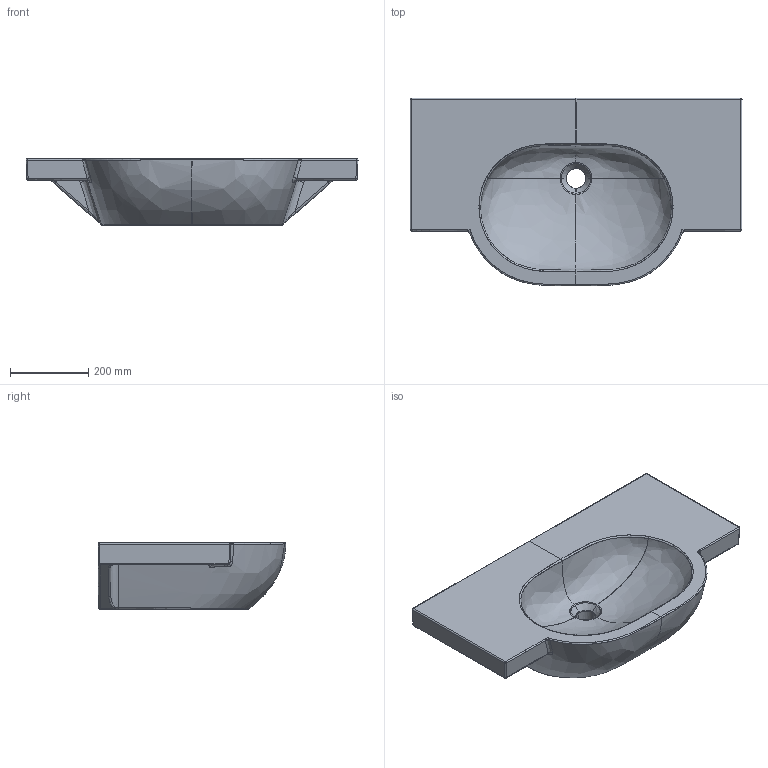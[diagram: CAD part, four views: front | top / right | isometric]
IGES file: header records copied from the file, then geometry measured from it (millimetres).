
Start section: START RECORD GO HERE.
Global section: file name: 5235_Lavabo 85.igs; native system: DASSAULT SYSTEMES CATIA V5 R19 - www.3ds.com; preprocessor: CATIA Version 5 Release 19 SP 5 ; author: gioge; organization: LAPTOP-G94B6G74; date: 20200630.120345; units: millimetre
Bounding box: 849.67 x 480 x 170 mm (x, y, z)
Surface area: 1215762.7 mm2 (no closed solid volume)
Topology: 0 solids, 0 shells, 320 faces, 1455 edges, 1424 vertices
Faces by surface type: bspline 166, revolution 126, plane 28
